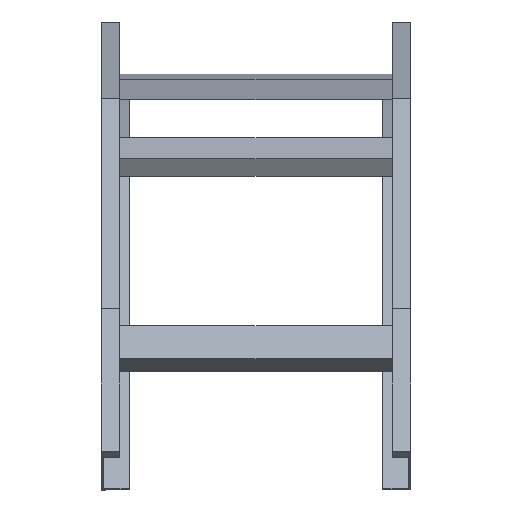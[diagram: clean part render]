
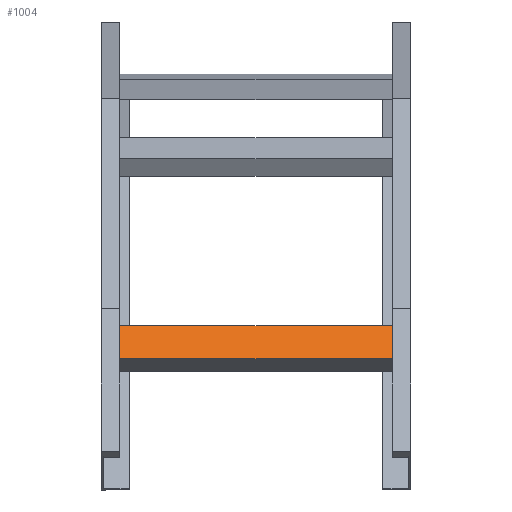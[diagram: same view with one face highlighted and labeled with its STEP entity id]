
A CAD part, top view. The second image highlights one B-rep face of the part: STEP entity #1004.
In plain terms, the highlighted planar face has unit normal (0, 0.609, 0.793) as drawn and (0, 1, 0) by its records, which use the part's own axes.
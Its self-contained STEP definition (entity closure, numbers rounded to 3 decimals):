
#120 = LINE ( 'NONE', #519, #1161 ) ;
#126 = CARTESIAN_POINT ( 'NONE',  ( 148., 20., 20.25 ) ) ;
#161 = ORIENTED_EDGE ( 'NONE', *, *, #995, .F. ) ;
#183 = DIRECTION ( 'NONE',  ( -1., 0., 0. ) ) ;
#191 = LINE ( 'NONE', #841, #1381 ) ;
#278 = VECTOR ( 'NONE', #1291, 1000. ) ;
#374 = CARTESIAN_POINT ( 'NONE',  ( 148., 20., 20.25 ) ) ;
#465 = VERTEX_POINT ( 'NONE', #840 ) ;
#485 = LINE ( 'NONE', #1418, #278 ) ;
#507 = CARTESIAN_POINT ( 'NONE',  ( 148., 20., 20.25 ) ) ;
#519 = CARTESIAN_POINT ( 'NONE',  ( -148., 20., 20.25 ) ) ;
#616 = VECTOR ( 'NONE', #763, 1000. ) ;
#656 = CARTESIAN_POINT ( 'NONE',  ( -148., 20., 20.25 ) ) ;
#717 = ORIENTED_EDGE ( 'NONE', *, *, #768, .F. ) ;
#755 = PLANE ( 'NONE',  #1444 ) ;
#763 = DIRECTION ( 'NONE',  ( -1., 0., 0. ) ) ;
#768 = EDGE_CURVE ( 'NONE', #1542, #1000, #485, .T. ) ;
#831 = VERTEX_POINT ( 'NONE', #656 ) ;
#840 = CARTESIAN_POINT ( 'NONE',  ( -148., 20., -20.25 ) ) ;
#841 = CARTESIAN_POINT ( 'NONE',  ( 148., 20., -20.25 ) ) ;
#868 = ORIENTED_EDGE ( 'NONE', *, *, #961, .T. ) ;
#961 = EDGE_CURVE ( 'NONE', #1542, #465, #191, .T. ) ;
#995 = EDGE_CURVE ( 'NONE', #1000, #831, #1689, .T. ) ;
#1000 = VERTEX_POINT ( 'NONE', #507 ) ;
#1004 = ADVANCED_FACE ( 'NONE', ( #1643 ), #755, .F. ) ;
#1009 = EDGE_LOOP ( 'NONE', ( #1242, #161, #717, #868 ) ) ;
#1025 = DIRECTION ( 'NONE',  ( 0., 0., -1. ) ) ;
#1161 = VECTOR ( 'NONE', #1394, 1000. ) ;
#1242 = ORIENTED_EDGE ( 'NONE', *, *, #1416, .T. ) ;
#1266 = DIRECTION ( 'NONE',  ( 0., -1., 0. ) ) ;
#1291 = DIRECTION ( 'NONE',  ( 0., 0., 1. ) ) ;
#1381 = VECTOR ( 'NONE', #183, 1000. ) ;
#1394 = DIRECTION ( 'NONE',  ( 0., 0., 1. ) ) ;
#1416 = EDGE_CURVE ( 'NONE', #465, #831, #120, .T. ) ;
#1418 = CARTESIAN_POINT ( 'NONE',  ( 148., 20., 20.25 ) ) ;
#1444 = AXIS2_PLACEMENT_3D ( 'NONE', #126, #1266, #1025 ) ;
#1542 = VERTEX_POINT ( 'NONE', #1675 ) ;
#1643 = FACE_OUTER_BOUND ( 'NONE', #1009, .T. ) ;
#1675 = CARTESIAN_POINT ( 'NONE',  ( 148., 20., -20.25 ) ) ;
#1689 = LINE ( 'NONE', #374, #616 ) ;
